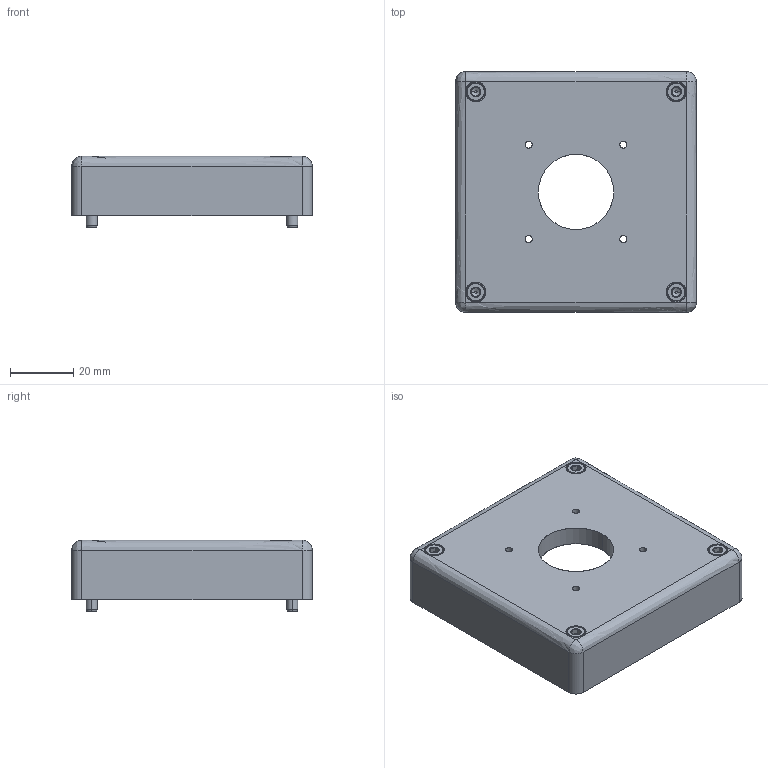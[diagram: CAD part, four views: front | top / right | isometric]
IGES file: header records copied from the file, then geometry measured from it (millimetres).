
Start section: SolidWorks IGES file using analytic representation for surfaces
Global section: file name: C:\Users\mrhan\Dropbox\Mechanical Engr\CAD models for customers\Accessories\234-C-02.IGS; native system: SolidWorks 2020; preprocessor: SolidWorks 2020; author: mrhan; date: 220621.131354; units: millimetre
Bounding box: 76.2 x 76.2 x 22.62 mm (x, y, z)
Surface area: 23218 mm2 (no closed solid volume)
Topology: 0 solids, 0 shells, 224 faces, 2835 edges, 2824 vertices
Faces by surface type: revolution 120, bspline 104
